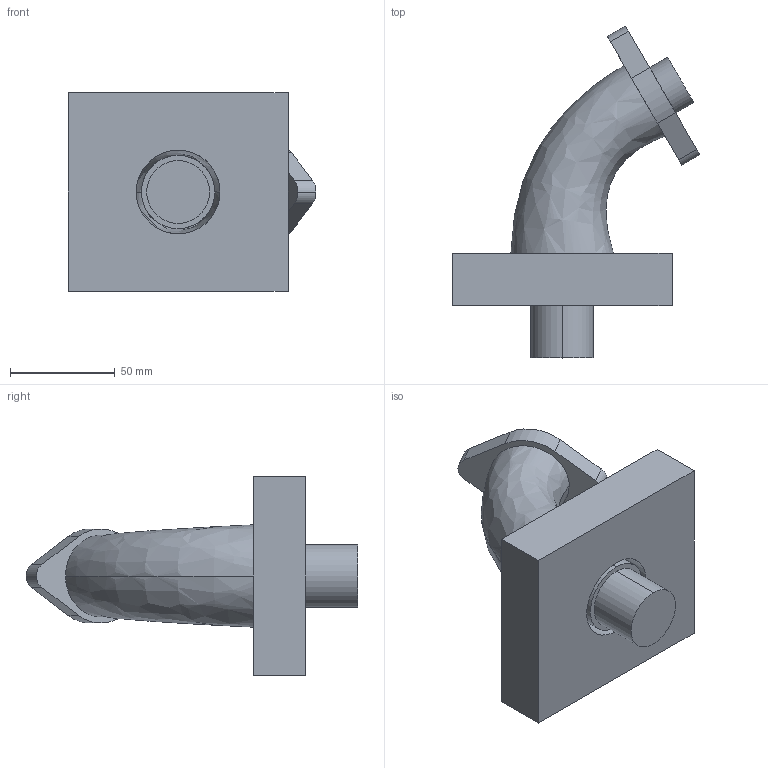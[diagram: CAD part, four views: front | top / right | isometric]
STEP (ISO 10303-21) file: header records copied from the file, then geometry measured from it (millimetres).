
FILE_DESCRIPTION (( 'STEP AP214' ), '1' );
FILE_NAME ('motor part negativ.STEP', '2014-11-27T10:35:15', ( '' ), ( '' ), 'SwSTEP 2.0', 'SolidWorks 2014', '' );
FILE_SCHEMA (( 'AUTOMOTIVE_DESIGN' ));
Length unit declared in the file: millimetre
Products named in the file (2): motor part negativ
Bounding box: 118.26 x 158.52 x 95 mm (x, y, z)
Volume: 386659.1 mm3; surface area: 72349.5 mm2
Topology: 2 solids, 2 shells, 40 faces, 91 edges, 60 vertices
Faces by surface type: plane 17, cylinder 15, bspline 6, cone 2
Entity records: 2418 total; most frequent: CARTESIAN_POINT 1484, ORIENTED_EDGE 182, DIRECTION 169, EDGE_CURVE 91, AXIS2_PLACEMENT_3D 64, VERTEX_POINT 60, EDGE_LOOP 47, VECTOR 41
